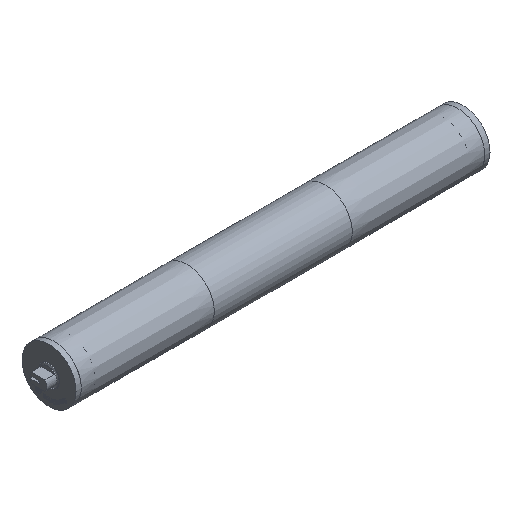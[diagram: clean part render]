
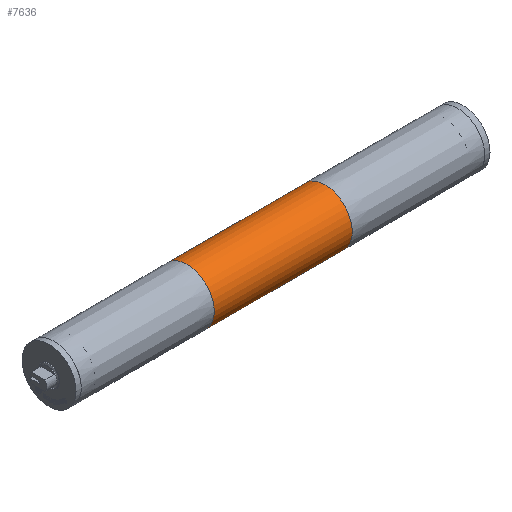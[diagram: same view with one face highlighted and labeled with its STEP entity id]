
A CAD part, isometric view. The second image highlights one B-rep face of the part: STEP entity #7636.
In plain terms, the highlighted cylindrical face has radius 56.75 mm (diameter 113.5 mm), a full revolution.
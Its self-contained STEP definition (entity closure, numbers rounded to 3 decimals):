
#237=FACE_BOUND('',#1445,.T.);
#280=CIRCLE('',#7948,56.75);
#281=CIRCLE('',#7949,56.75);
#966=FACE_OUTER_BOUND('',#1444,.T.);
#1444=EDGE_LOOP('',(#7181));
#1445=EDGE_LOOP('',(#7182));
#3945=VERTEX_POINT('',#13644);
#3946=VERTEX_POINT('',#13646);
#5029=EDGE_CURVE('',#3945,#3945,#280,.T.);
#5030=EDGE_CURVE('',#3946,#3946,#281,.T.);
#7181=ORIENTED_EDGE('',*,*,#5029,.T.);
#7182=ORIENTED_EDGE('',*,*,#5030,.F.);
#7223=CYLINDRICAL_SURFACE('',#7947,56.75);
#7636=ADVANCED_FACE('',(#966,#237),#7223,.T.);
#7947=AXIS2_PLACEMENT_3D('',#13643,#9235,#9236);
#7948=AXIS2_PLACEMENT_3D('',#13645,#9237,#9238);
#7949=AXIS2_PLACEMENT_3D('',#13647,#9239,#9240);
#9235=DIRECTION('center_axis',(1.,0.,0.));
#9236=DIRECTION('ref_axis',(0.,1.,0.));
#9237=DIRECTION('center_axis',(1.,0.,0.));
#9238=DIRECTION('ref_axis',(0.,0.,-1.));
#9239=DIRECTION('center_axis',(1.,0.,0.));
#9240=DIRECTION('ref_axis',(0.,0.,-1.));
#13643=CARTESIAN_POINT('Origin',(0.,0.,0.));
#13644=CARTESIAN_POINT('',(-143.667,56.75,0.));
#13645=CARTESIAN_POINT('Origin',(-143.667,0.,
0.));
#13646=CARTESIAN_POINT('',(143.667,56.75,0.));
#13647=CARTESIAN_POINT('Origin',(143.667,0.,
0.));
